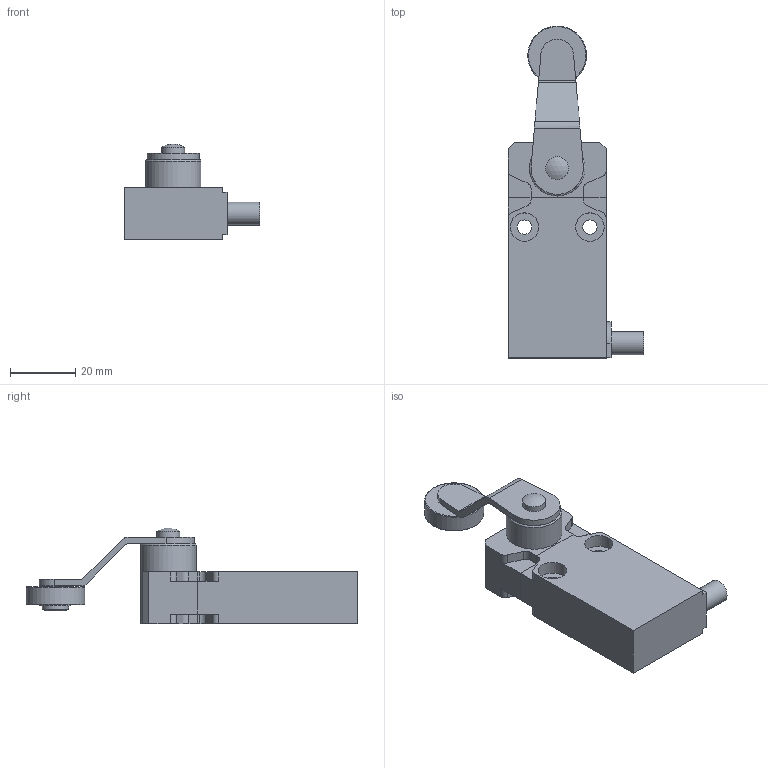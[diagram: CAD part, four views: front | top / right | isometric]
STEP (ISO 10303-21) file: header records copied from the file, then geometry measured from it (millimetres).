
FILE_DESCRIPTION(/* description */ (''),/* implementation_level */ '2;1');
FILE_NAME(/* name */ 'C:\Users\servizio.tecnico\Desktop\CADENAS\3D\EP1_STP\STP_EP1_G45U.stp',/* time_stamp */ '2017-09-01T08:33:50+02:00',/* author */ ('servizio.tecnico'),/* organization */ (''),/* preprocessor_version */ 'ST-DEVELOPER v16.1',/* originating_system */ 'Autodesk Inventor 2016',/* authorisation */ '');
FILE_SCHEMA (('AUTOMOTIVE_DESIGN { 1 0 10303 214 3 1 1 }'));
Length unit declared in the file: millimetre
Products named in the file (3): Product; EP1G45; BASE ASSI 
Assembly tree (2 placements, depth 3):
  BASE ASSI 
    EP1G45
      Product
Bounding box: 41.5 x 101.5 x 29.28 mm (x, y, z)
Volume: 34501.5 mm3; surface area: 11915.1 mm2
Topology: 4 solids, 4 shells, 115 faces, 286 edges, 191 vertices
Faces by surface type: plane 68, cylinder 42, torus 3, cone 1, sphere 1
Full cylindrical faces by diameter (mm): 4.4 x2, 6 x2, 7 x2, 8 x1, 8.7 x4, 9.5 x2, 17 x1, 18 x1
Entity records: 3420 total; most frequent: DIRECTION 590, CARTESIAN_POINT 566, ORIENTED_EDGE 522, EDGE_CURVE 261, AXIS2_PLACEMENT_3D 209, VERTEX_POINT 185, LINE 172, VECTOR 172
